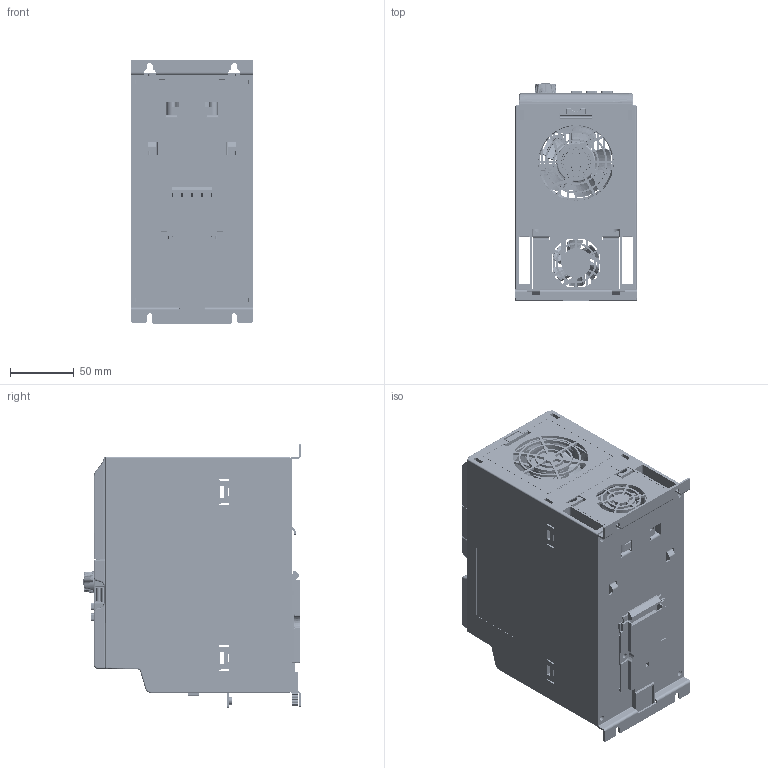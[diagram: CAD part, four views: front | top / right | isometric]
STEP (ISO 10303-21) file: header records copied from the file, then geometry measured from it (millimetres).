
FILE_DESCRIPTION((''),'2;1');
FILE_NAME('00_C_ASM','2014-07-28T',('zhi2xi'),(''),'PRO/ENGINEER BY PARAMETRIC TECHNOLOGY CORPORATION, 2009380','PRO/ENGINEER BY PARAMETRIC TECHNOLOGY CORPORATION, 2009380','');
FILE_SCHEMA(('CONFIG_CONTROL_DESIGN'));
Length unit declared in the file: millimetre
Products named in the file (40): R912005577; R912005576; C_DIBAN; D04G-24TH; R912005574; R912005581; 60-15; FAN_ASM; PRT0010; PRT0031; ASM0003_ASM; PL_EFC5610_IOCAE_CONVER; LK_YCP06-PLATINE; CPU_CONNECTOR-14P; CONNECTOR; CONNECTOR_TYCO-331; 548190519; CONNECT2-2; 2185-205SY3; 1155590000; LK_YCP06_ASM; DB272710; 01-IOBACK_CASE; LD_KCCT_M3X10; 01_DISPLAYCASE; DISPLAY_PCB1; R911329772; R911330025; LED; CONNECTOR2; DISPLAY_PCB_ASM; BACK_CASE1; R911330333_FOLIE; BUUTTON; XUAN_NIU; LABEL_15X50; 02-DISPLAY-CASE_ASM; 01-IOCASE_ASM; GND; 00_C_ASM
Assembly tree (48 placements, depth 5):
  00_C_ASM
    R912005577
    R912005576
    C_DIBAN
    D04G-24TH
    R912005574
    FAN_ASM
      R912005581
      60-15
    ASM0003_ASM
      PRT0010
      PRT0031
    01-IOCASE_ASM
      PL_EFC5610_IOCAE_CONVER
      LK_YCP06_ASM
        LK_YCP06-PLATINE
        CPU_CONNECTOR-14P
        CONNECTOR
        CONNECTOR_TYCO-331
        548190519
        CONNECT2-2
        2185-205SY3
        1155590000
      DB272710
      01-IOBACK_CASE
      LD_KCCT_M3X10  x2
      02-DISPLAY-CASE_ASM
        01_DISPLAYCASE
        DISPLAY_PCB_ASM
          DISPLAY_PCB1
          R911329772  x6
          R911330025
          LED
          CONNECTOR2
          CONNECTOR_TYCO-331
        BACK_CASE1
        R911330333_FOLIE
        BUUTTON
        XUAN_NIU
        LD_KCCT_M3X10  x2
        LABEL_15X50
    GND
Bounding box: 95 x 170.05 x 207.5 mm (x, y, z)
Volume: 573603.6 mm3; surface area: 557787.6 mm2
Topology: 56 solids, 62 shells, 9453 faces, 24894 edges, 15870 vertices
Faces by surface type: plane 5946, cylinder 1946, bspline 715, torus 321, cone 258, sphere 147, extrusion 120
Entity records: 374402 total; most frequent: CARTESIAN_POINT 90056, ORIENTED_EDGE 46188, DIRECTION 41915, EDGE_CURVE 23094, PRESENTATION_STYLE_ASSIGNMENT 19628, STYLED_ITEM 18577, CURVE_STYLE 18473, VECTOR 16751
